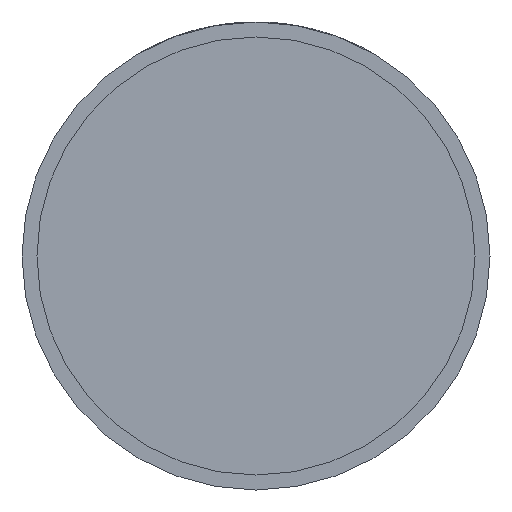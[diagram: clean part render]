
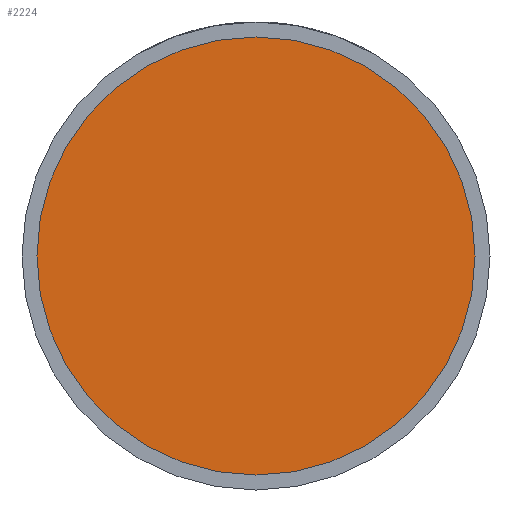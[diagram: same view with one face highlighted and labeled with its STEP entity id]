
A CAD part, front view. The second image highlights one B-rep face of the part: STEP entity #2224.
In plain terms, the highlighted planar face has unit normal (0, -1, 0).
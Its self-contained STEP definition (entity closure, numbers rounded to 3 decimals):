
#244 = AXIS2_PLACEMENT_3D ( 'NONE', #3623, #1968, #1643 ) ;
#262 = CARTESIAN_POINT ( 'NONE',  ( 33.7, -20., 0. ) ) ;
#268 = ORIENTED_EDGE ( 'NONE', *, *, #3022, .T. ) ;
#407 = VERTEX_POINT ( 'NONE', #1149 ) ;
#442 = AXIS2_PLACEMENT_3D ( 'NONE', #856, #3111, #2174 ) ;
#445 = VERTEX_POINT ( 'NONE', #262 ) ;
#641 = PLANE ( 'NONE',  #244 ) ;
#856 = CARTESIAN_POINT ( 'NONE',  ( 0., -20., 0. ) ) ;
#966 = CARTESIAN_POINT ( 'NONE',  ( 0., -20., 0. ) ) ;
#1149 = CARTESIAN_POINT ( 'NONE',  ( -33.7, -20., 0. ) ) ;
#1266 = DIRECTION ( 'NONE',  ( 1., 0., 0. ) ) ;
#1267 = FACE_OUTER_BOUND ( 'NONE', #3723, .T. ) ;
#1643 = DIRECTION ( 'NONE',  ( 1., 0., 0. ) ) ;
#1967 = DIRECTION ( 'NONE',  ( 0., -1., 0. ) ) ;
#1968 = DIRECTION ( 'NONE',  ( 0., -1., 0. ) ) ;
#2174 = DIRECTION ( 'NONE',  ( 1., 0., 0. ) ) ;
#2224 = ADVANCED_FACE ( 'NONE', ( #1267 ), #641, .T. ) ;
#2601 = AXIS2_PLACEMENT_3D ( 'NONE', #966, #1967, #1266 ) ;
#2672 = ORIENTED_EDGE ( 'NONE', *, *, #3244, .T. ) ;
#2878 = CIRCLE ( 'NONE', #2601, 33.7 ) ;
#3022 = EDGE_CURVE ( 'NONE', #407, #445, #2878, .T. ) ;
#3111 = DIRECTION ( 'NONE',  ( 0., -1., 0. ) ) ;
#3244 = EDGE_CURVE ( 'NONE', #445, #407, #4065, .T. ) ;
#3623 = CARTESIAN_POINT ( 'NONE',  ( 33.7, -20., 0. ) ) ;
#3723 = EDGE_LOOP ( 'NONE', ( #2672, #268 ) ) ;
#4065 = CIRCLE ( 'NONE', #442, 33.7 ) ;
